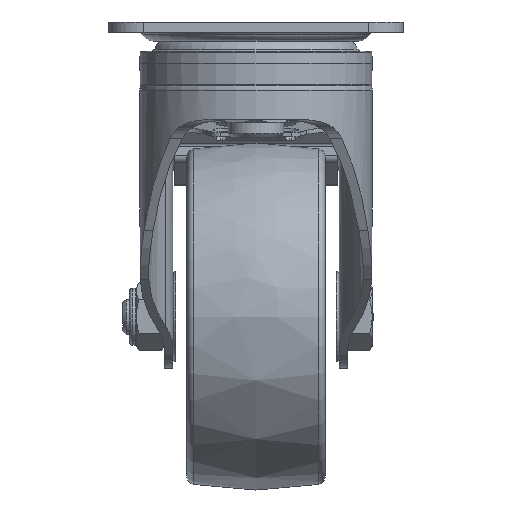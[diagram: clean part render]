
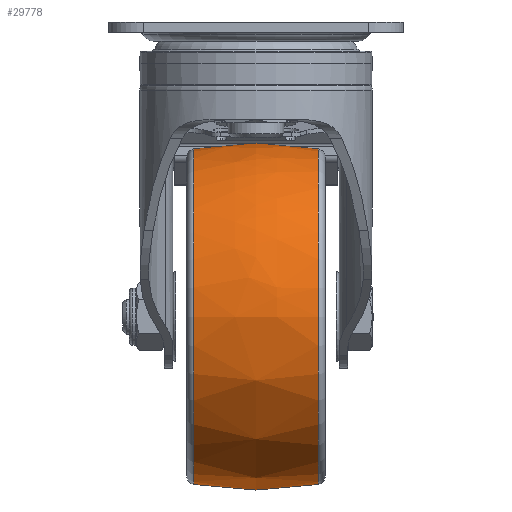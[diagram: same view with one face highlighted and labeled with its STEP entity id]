
A CAD part, left-side view. The second image highlights one B-rep face of the part: STEP entity #29778.
In plain terms, the highlighted free-form (B-spline) face has degree [2, 2] with [3, 9] control points.
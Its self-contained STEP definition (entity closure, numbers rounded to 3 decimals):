
#68=(
BOUNDED_SURFACE()
B_SPLINE_SURFACE(2,2,((#44479,#44480,#44481,#44482,#44483,#44484,#44485,
#44486,#44487),(#44488,#44489,#44490,#44491,#44492,#44493,#44494,#44495,
#44496),(#44497,#44498,#44499,#44500,#44501,#44502,#44503,#44504,#44505)),
 .UNSPECIFIED.,.F.,.T.,.F.)
B_SPLINE_SURFACE_WITH_KNOTS((3,3),(3,2,2,2,3),(-0.18,0.18),
(-3.142,-1.571,0.,1.571,3.142),
 .UNSPECIFIED.)
GEOMETRIC_REPRESENTATION_ITEM()
RATIONAL_B_SPLINE_SURFACE(((1.,0.707,1.,0.707,1.,
0.707,1.,0.707,1.),(0.984,0.696,
0.984,0.696,0.984,0.696,
0.984,0.696,0.984),(1.,0.707,
1.,0.707,1.,0.707,1.,0.707,1.)))
REPRESENTATION_ITEM('')
SURFACE()
);
#8914=FACE_OUTER_BOUND('',#10676,.T.);
#10676=EDGE_LOOP('',(#22747,#22748,#22749,#22750));
#12132=CIRCLE('',#31452,48.376);
#12134=CIRCLE('',#31454,48.376);
#12135=CIRCLE('',#31455,100.);
#13656=VERTEX_POINT('',#44476);
#13657=VERTEX_POINT('',#44506);
#17001=EDGE_CURVE('',#13656,#13656,#12132,.T.);
#17003=EDGE_CURVE('',#13657,#13657,#12134,.T.);
#17004=EDGE_CURVE('',#13657,#13656,#12135,.T.);
#22747=ORIENTED_EDGE('',*,*,#17003,.F.);
#22748=ORIENTED_EDGE('',*,*,#17004,.T.);
#22749=ORIENTED_EDGE('',*,*,#17001,.T.);
#22750=ORIENTED_EDGE('',*,*,#17004,.F.);
#29778=ADVANCED_FACE('',(#8914),#68,.F.);
#31452=AXIS2_PLACEMENT_3D('',#44477,#34634,#34635);
#31454=AXIS2_PLACEMENT_3D('',#44507,#34638,#34639);
#31455=AXIS2_PLACEMENT_3D('',#44508,#34640,#34641);
#34634=DIRECTION('center_axis',(0.,-1.,0.));
#34635=DIRECTION('ref_axis',(1.,0.,0.));
#34638=DIRECTION('center_axis',(0.,-1.,0.));
#34639=DIRECTION('ref_axis',(1.,0.,0.));
#34640=DIRECTION('center_axis',(0.,0.,
-1.));
#34641=DIRECTION('ref_axis',(-1.,0.,0.));
#44476=CARTESIAN_POINT('',(-12.376,17.949,-83.8));
#44477=CARTESIAN_POINT('Origin',(36.,17.949,-83.8));
#44479=CARTESIAN_POINT('Ctrl Pts',(-12.376,17.949,-83.8));
#44480=CARTESIAN_POINT('Ctrl Pts',(-12.376,17.949,-132.176));
#44481=CARTESIAN_POINT('Ctrl Pts',(36.,17.949,-132.176));
#44482=CARTESIAN_POINT('Ctrl Pts',(84.376,17.949,-132.176));
#44483=CARTESIAN_POINT('Ctrl Pts',(84.376,17.949,-83.8));
#44484=CARTESIAN_POINT('Ctrl Pts',(84.376,17.949,-35.424));
#44485=CARTESIAN_POINT('Ctrl Pts',(36.,17.949,-35.424));
#44486=CARTESIAN_POINT('Ctrl Pts',(-12.376,17.949,-35.424));
#44487=CARTESIAN_POINT('Ctrl Pts',(-12.376,17.949,-83.8));
#44488=CARTESIAN_POINT('Ctrl Pts',(-15.651,0.,
-83.8));
#44489=CARTESIAN_POINT('Ctrl Pts',(-15.651,0.,
-135.451));
#44490=CARTESIAN_POINT('Ctrl Pts',(36.,0.,
-135.451));
#44491=CARTESIAN_POINT('Ctrl Pts',(87.651,0.,
-135.451));
#44492=CARTESIAN_POINT('Ctrl Pts',(87.651,0.,
-83.8));
#44493=CARTESIAN_POINT('Ctrl Pts',(87.651,0.,
-32.149));
#44494=CARTESIAN_POINT('Ctrl Pts',(36.,0.,
-32.149));
#44495=CARTESIAN_POINT('Ctrl Pts',(-15.651,0.,
-32.149));
#44496=CARTESIAN_POINT('Ctrl Pts',(-15.651,0.,
-83.8));
#44497=CARTESIAN_POINT('Ctrl Pts',(-12.376,-17.949,-83.8));
#44498=CARTESIAN_POINT('Ctrl Pts',(-12.376,-17.949,
-132.176));
#44499=CARTESIAN_POINT('Ctrl Pts',(36.,-17.949,-132.176));
#44500=CARTESIAN_POINT('Ctrl Pts',(84.376,-17.949,-132.176));
#44501=CARTESIAN_POINT('Ctrl Pts',(84.376,-17.949,-83.8));
#44502=CARTESIAN_POINT('Ctrl Pts',(84.376,-17.949,-35.424));
#44503=CARTESIAN_POINT('Ctrl Pts',(36.,-17.949,-35.424));
#44504=CARTESIAN_POINT('Ctrl Pts',(-12.376,-17.949,
-35.424));
#44505=CARTESIAN_POINT('Ctrl Pts',(-12.376,-17.949,-83.8));
#44506=CARTESIAN_POINT('',(-12.376,-17.949,-83.8));
#44507=CARTESIAN_POINT('Origin',(36.,-17.949,-83.8));
#44508=CARTESIAN_POINT('Origin',(86.,0.,
-83.8));
